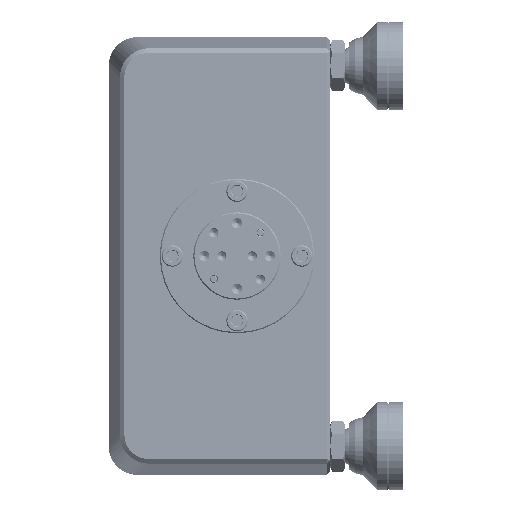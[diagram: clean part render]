
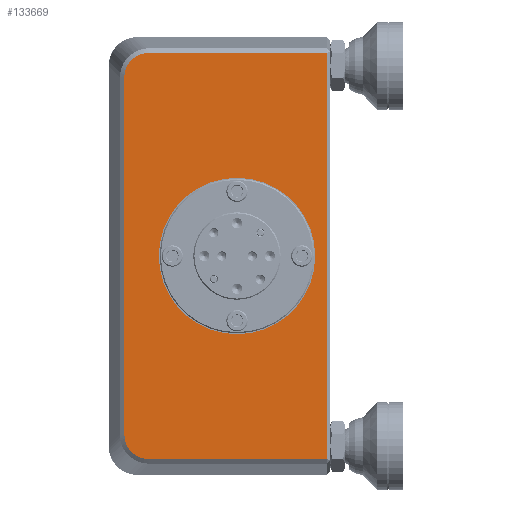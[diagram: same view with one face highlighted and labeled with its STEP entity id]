
A CAD part, left-side view. The second image highlights one B-rep face of the part: STEP entity #133669.
In plain terms, the highlighted planar face has unit normal (-1, 0, 0).
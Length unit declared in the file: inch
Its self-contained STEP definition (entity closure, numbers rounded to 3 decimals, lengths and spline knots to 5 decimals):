
#10292 = EDGE_CURVE ( 'NONE', #225227, #188220, #136433, .T. ) ;
#12857 = CARTESIAN_POINT ( 'NONE',  ( -0.753, 1.55616, 1.74008 ) ) ;
#17380 = ORIENTED_EDGE ( 'NONE', *, *, #235667, .T. ) ;
#33050 = CARTESIAN_POINT ( 'NONE',  ( -0.753, 0.03, 0. ) ) ;
#34682 = PLANE ( 'NONE',  #168367 ) ;
#36401 = CARTESIAN_POINT ( 'NONE',  ( -0.753, 0.95, -1.74008 ) ) ;
#42076 = VECTOR ( 'NONE', #50726, 39.37008 ) ;
#44498 = CARTESIAN_POINT ( 'NONE',  ( -0.753, 1.75965, 1.58615 ) ) ;
#46660 = CARTESIAN_POINT ( 'NONE',  ( -0.753, 0.8, 0. ) ) ;
#47736 = CARTESIAN_POINT ( 'NONE',  ( -0.753, 1.73884, 1.63662 ) ) ;
#50726 = DIRECTION ( 'NONE',  ( 0., 1., 0. ) ) ;
#53966 = EDGE_CURVE ( 'NONE', #182950, #300854, #54051, .T. ) ;
#54051 = CIRCLE ( 'NONE', #245248, 0.67 ) ;
#56511 = DIRECTION ( 'NONE',  ( 0., 0., 1. ) ) ;
#57422 = EDGE_LOOP ( 'NONE', ( #267586, #289795, #118984, #323602, #309501, #17380 ) ) ;
#65219 = CARTESIAN_POINT ( 'NONE',  ( -0.753, 1.72336, -1.65985 ) ) ;
#67030 = B_SPLINE_CURVE_WITH_KNOTS ( 'NONE', 3,
 ( #326267, #168423, #273127, #246491, #65219, #70156, #324632, #91901, #244815, #218306 ),
 .UNSPECIFIED., .F., .F.,
 ( 4, 2, 2, 2, 4 ),
 ( 0., 0.25, 0.5, 0.75, 1. ),
 .UNSPECIFIED. ) ;
#70156 = CARTESIAN_POINT ( 'NONE',  ( -0.753, 1.68486, -1.69836 ) ) ;
#71288 = CARTESIAN_POINT ( 'NONE',  ( -0.753, 0.95, 0. ) ) ;
#86750 = EDGE_CURVE ( 'NONE', #300854, #182950, #249273, .T. ) ;
#88412 = CARTESIAN_POINT ( 'NONE',  ( -0.753, 0.8, 0.67 ) ) ;
#89629 = CARTESIAN_POINT ( 'NONE',  ( -0.753, 0.8, -0.67 ) ) ;
#91901 = CARTESIAN_POINT ( 'NONE',  ( -0.753, 1.61115, -1.73465 ) ) ;
#92886 = CARTESIAN_POINT ( 'NONE',  ( -0.753, 1.58364, 1.74008 ) ) ;
#96271 = DIRECTION ( 'NONE',  ( 1., 0., 0. ) ) ;
#96631 = DIRECTION ( 'NONE',  ( 0., 0., 1. ) ) ;
#108579 = CARTESIAN_POINT ( 'NONE',  ( -0.753, 0.03, 1.74008 ) ) ;
#118984 = ORIENTED_EDGE ( 'NONE', *, *, #142357, .T. ) ;
#119516 = CARTESIAN_POINT ( 'NONE',  ( -0.753, 1.76508, 1.53116 ) ) ;
#119953 = B_SPLINE_CURVE_WITH_KNOTS ( 'NONE', 3,
 ( #12857, #92886, #295793, #169398, #146082, #224164, #47736, #44498, #277315, #119516 ),
 .UNSPECIFIED., .F., .F.,
 ( 4, 2, 2, 2, 4 ),
 ( 0., 0.25, 0.5, 0.75, 1. ),
 .UNSPECIFIED. ) ;
#126597 = EDGE_CURVE ( 'NONE', #209512, #293323, #285188, .T. ) ;
#133669 = ADVANCED_FACE ( 'NONE', ( #164574, #262676 ), #34682, .F. ) ;
#136433 = LINE ( 'NONE', #36401, #321516 ) ;
#137375 = VECTOR ( 'NONE', #176400, 39.37008 ) ;
#142357 = EDGE_CURVE ( 'NONE', #188220, #209512, #236105, .T. ) ;
#146082 = CARTESIAN_POINT ( 'NONE',  ( -0.753, 1.68485, 1.69836 ) ) ;
#147366 = CARTESIAN_POINT ( 'NONE',  ( -0.753, 0.03, -1.74008 ) ) ;
#148236 = DIRECTION ( 'NONE',  ( -1., 0., 0. ) ) ;
#151495 = LINE ( 'NONE', #327747, #137375 ) ;
#153949 = VECTOR ( 'NONE', #56511, 39.37008 ) ;
#161510 = EDGE_CURVE ( 'NONE', #293323, #209491, #119953, .T. ) ;
#164574 = FACE_OUTER_BOUND ( 'NONE', #57422, .T. ) ;
#168367 = AXIS2_PLACEMENT_3D ( 'NONE', #71288, #96271, #270981 ) ;
#168423 = CARTESIAN_POINT ( 'NONE',  ( -0.753, 1.76508, -1.55864 ) ) ;
#169398 = CARTESIAN_POINT ( 'NONE',  ( -0.753, 1.66162, 1.71385 ) ) ;
#176400 = DIRECTION ( 'NONE',  ( 0., 0., -1. ) ) ;
#176551 = DIRECTION ( 'NONE',  ( 0., 0., 1. ) ) ;
#179099 = EDGE_LOOP ( 'NONE', ( #227467, #318880 ) ) ;
#182950 = VERTEX_POINT ( 'NONE', #89629 ) ;
#188220 = VERTEX_POINT ( 'NONE', #147366 ) ;
#188264 = CARTESIAN_POINT ( 'NONE',  ( -0.753, 1.76508, 1.53116 ) ) ;
#200926 = CARTESIAN_POINT ( 'NONE',  ( -0.753, 1.55616, 1.74008 ) ) ;
#209491 = VERTEX_POINT ( 'NONE', #188264 ) ;
#209512 = VERTEX_POINT ( 'NONE', #108579 ) ;
#218306 = CARTESIAN_POINT ( 'NONE',  ( -0.753, 1.55616, -1.74008 ) ) ;
#221010 = VERTEX_POINT ( 'NONE', #277501 ) ;
#224164 = CARTESIAN_POINT ( 'NONE',  ( -0.753, 1.72336, 1.65986 ) ) ;
#225227 = VERTEX_POINT ( 'NONE', #281577 ) ;
#227467 = ORIENTED_EDGE ( 'NONE', *, *, #86750, .F. ) ;
#235667 = EDGE_CURVE ( 'NONE', #209491, #221010, #151495, .T. ) ;
#236105 = LINE ( 'NONE', #33050, #153949 ) ;
#243846 = AXIS2_PLACEMENT_3D ( 'NONE', #324644, #302985, #176551 ) ;
#244815 = CARTESIAN_POINT ( 'NONE',  ( -0.753, 1.5837, -1.74008 ) ) ;
#245248 = AXIS2_PLACEMENT_3D ( 'NONE', #46660, #148236, #96631 ) ;
#246491 = CARTESIAN_POINT ( 'NONE',  ( -0.753, 1.73885, -1.63662 ) ) ;
#249273 = CIRCLE ( 'NONE', #243846, 0.67 ) ;
#255290 = CARTESIAN_POINT ( 'NONE',  ( -0.753, 0.95, 1.74008 ) ) ;
#262676 = FACE_BOUND ( 'NONE', #179099, .T. ) ;
#267586 = ORIENTED_EDGE ( 'NONE', *, *, #272014, .T. ) ;
#270981 = DIRECTION ( 'NONE',  ( 0., 0., -1. ) ) ;
#272014 = EDGE_CURVE ( 'NONE', #221010, #225227, #67030, .T. ) ;
#273127 = CARTESIAN_POINT ( 'NONE',  ( -0.753, 1.75964, -1.58614 ) ) ;
#277315 = CARTESIAN_POINT ( 'NONE',  ( -0.753, 1.76508, 1.5587 ) ) ;
#277501 = CARTESIAN_POINT ( 'NONE',  ( -0.753, 1.76508, -1.53116 ) ) ;
#281577 = CARTESIAN_POINT ( 'NONE',  ( -0.753, 1.55616, -1.74008 ) ) ;
#285188 = LINE ( 'NONE', #255290, #42076 ) ;
#287734 = DIRECTION ( 'NONE',  ( 0., -1., 0. ) ) ;
#289795 = ORIENTED_EDGE ( 'NONE', *, *, #10292, .T. ) ;
#293323 = VERTEX_POINT ( 'NONE', #200926 ) ;
#295793 = CARTESIAN_POINT ( 'NONE',  ( -0.753, 1.61114, 1.73464 ) ) ;
#300854 = VERTEX_POINT ( 'NONE', #88412 ) ;
#302985 = DIRECTION ( 'NONE',  ( -1., 0., 0. ) ) ;
#309501 = ORIENTED_EDGE ( 'NONE', *, *, #161510, .T. ) ;
#318880 = ORIENTED_EDGE ( 'NONE', *, *, #53966, .F. ) ;
#321516 = VECTOR ( 'NONE', #287734, 39.37008 ) ;
#323602 = ORIENTED_EDGE ( 'NONE', *, *, #126597, .T. ) ;
#324632 = CARTESIAN_POINT ( 'NONE',  ( -0.753, 1.66162, -1.71384 ) ) ;
#324644 = CARTESIAN_POINT ( 'NONE',  ( -0.753, 0.8, 0. ) ) ;
#326267 = CARTESIAN_POINT ( 'NONE',  ( -0.753, 1.76508, -1.53116 ) ) ;
#327747 = CARTESIAN_POINT ( 'NONE',  ( -0.753, 1.76508, 0. ) ) ;
